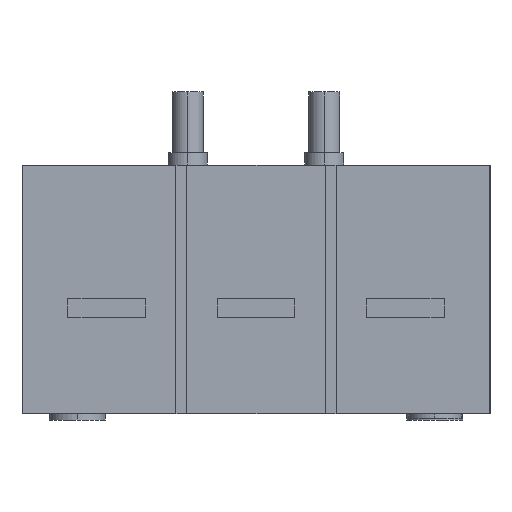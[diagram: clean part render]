
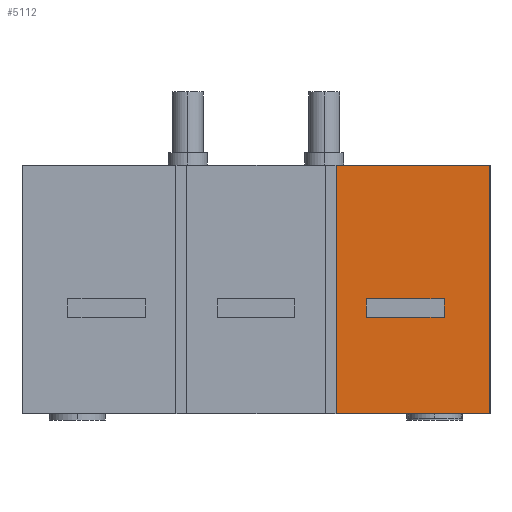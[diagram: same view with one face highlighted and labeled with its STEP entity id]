
A CAD part, front view. The second image highlights one B-rep face of the part: STEP entity #5112.
In plain terms, the highlighted planar face has unit normal (0, -1, 0) as drawn and (1, 0, 0) by its records, which use the part's own axes.
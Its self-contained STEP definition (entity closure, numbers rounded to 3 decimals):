
#110 = CARTESIAN_POINT ( 'NONE',  ( 138.5, 60.5, 31. ) ) ;
#306 = EDGE_CURVE ( 'NONE', #2381, #2173, #4398, .T. ) ;
#400 = FACE_BOUND ( 'NONE', #3932, .T. ) ;
#438 = VECTOR ( 'NONE', #6937, 1000. ) ;
#469 = FACE_OUTER_BOUND ( 'NONE', #7466, .T. ) ;
#671 = DIRECTION ( 'NONE',  ( 0., 0., -1. ) ) ;
#705 = ORIENTED_EDGE ( 'NONE', *, *, #3794, .T. ) ;
#717 = EDGE_CURVE ( 'NONE', #3148, #2173, #5506, .T. ) ;
#766 = DIRECTION ( 'NONE',  ( 0., 1., 0. ) ) ;
#840 = VECTOR ( 'NONE', #5392, 1000. ) ;
#921 = VECTOR ( 'NONE', #4125, 1000. ) ;
#1320 = DIRECTION ( 'NONE',  ( 0., -1., 0. ) ) ;
#1740 = CARTESIAN_POINT ( 'NONE',  ( 138.5, 95., 0. ) ) ;
#1849 = LINE ( 'NONE', #4802, #4335 ) ;
#2173 = VERTEX_POINT ( 'NONE', #110 ) ;
#2182 = DIRECTION ( 'NONE',  ( 0., 0., -1. ) ) ;
#2289 = CARTESIAN_POINT ( 'NONE',  ( 138.5, 35.5, 31. ) ) ;
#2303 = CARTESIAN_POINT ( 'NONE',  ( 138.5, 25.75, 80. ) ) ;
#2381 = VERTEX_POINT ( 'NONE', #2289 ) ;
#2491 = LINE ( 'NONE', #6598, #6014 ) ;
#2545 = VECTOR ( 'NONE', #7209, 1000. ) ;
#2643 = VECTOR ( 'NONE', #766, 1000. ) ;
#2704 = CARTESIAN_POINT ( 'NONE',  ( 138.5, 75.25, 0. ) ) ;
#2877 = ORIENTED_EDGE ( 'NONE', *, *, #3081, .T. ) ;
#3081 = EDGE_CURVE ( 'NONE', #6483, #3148, #3687, .T. ) ;
#3114 = CARTESIAN_POINT ( 'NONE',  ( 138.5, -23., 37. ) ) ;
#3148 = VERTEX_POINT ( 'NONE', #6199 ) ;
#3240 = DIRECTION ( 'NONE',  ( 0., -1., 0. ) ) ;
#3482 = ORIENTED_EDGE ( 'NONE', *, *, #3638, .F. ) ;
#3638 = EDGE_CURVE ( 'NONE', #4750, #5075, #6300, .T. ) ;
#3687 = LINE ( 'NONE', #3114, #2643 ) ;
#3785 = EDGE_CURVE ( 'NONE', #6483, #2381, #2491, .T. ) ;
#3794 = EDGE_CURVE ( 'NONE', #4750, #4869, #1849, .T. ) ;
#3824 = CARTESIAN_POINT ( 'NONE',  ( 138.5, -23., 31. ) ) ;
#3932 = EDGE_LOOP ( 'NONE', ( #2877, #6846, #5282, #5040 ) ) ;
#4125 = DIRECTION ( 'NONE',  ( 0., 0., -1. ) ) ;
#4231 = CARTESIAN_POINT ( 'NONE',  ( 138.5, 25.75, 0. ) ) ;
#4335 = VECTOR ( 'NONE', #1320, 1000. ) ;
#4398 = LINE ( 'NONE', #3824, #2545 ) ;
#4426 = CARTESIAN_POINT ( 'NONE',  ( 138.5, 75.25, 80. ) ) ;
#4750 = VERTEX_POINT ( 'NONE', #4426 ) ;
#4802 = CARTESIAN_POINT ( 'NONE',  ( 138.5, 95., 80. ) ) ;
#4836 = CARTESIAN_POINT ( 'NONE',  ( 138.5, 35.5, 37. ) ) ;
#4869 = VERTEX_POINT ( 'NONE', #2303 ) ;
#4871 = EDGE_CURVE ( 'NONE', #5075, #6525, #5701, .T. ) ;
#4918 = PLANE ( 'NONE',  #5520 ) ;
#5030 = ORIENTED_EDGE ( 'NONE', *, *, #4871, .F. ) ;
#5040 = ORIENTED_EDGE ( 'NONE', *, *, #3785, .F. ) ;
#5075 = VERTEX_POINT ( 'NONE', #2704 ) ;
#5112 = ADVANCED_FACE ( 'NONE', ( #469, #400 ), #4918, .T. ) ;
#5282 = ORIENTED_EDGE ( 'NONE', *, *, #306, .F. ) ;
#5331 = VECTOR ( 'NONE', #2182, 1000. ) ;
#5392 = DIRECTION ( 'NONE',  ( 0., 0., -1. ) ) ;
#5433 = LINE ( 'NONE', #6445, #840 ) ;
#5506 = LINE ( 'NONE', #7349, #5331 ) ;
#5520 = AXIS2_PLACEMENT_3D ( 'NONE', #7201, #6637, #3240 ) ;
#5701 = LINE ( 'NONE', #1740, #438 ) ;
#6014 = VECTOR ( 'NONE', #671, 1000. ) ;
#6199 = CARTESIAN_POINT ( 'NONE',  ( 138.5, 60.5, 37. ) ) ;
#6264 = CARTESIAN_POINT ( 'NONE',  ( 138.5, 75.25, 95. ) ) ;
#6300 = LINE ( 'NONE', #6264, #921 ) ;
#6445 = CARTESIAN_POINT ( 'NONE',  ( 138.5, 25.75, 80. ) ) ;
#6469 = EDGE_CURVE ( 'NONE', #4869, #6525, #5433, .T. ) ;
#6483 = VERTEX_POINT ( 'NONE', #4836 ) ;
#6525 = VERTEX_POINT ( 'NONE', #4231 ) ;
#6598 = CARTESIAN_POINT ( 'NONE',  ( 138.5, 35.5, 55. ) ) ;
#6637 = DIRECTION ( 'NONE',  ( 1., 0., 0. ) ) ;
#6846 = ORIENTED_EDGE ( 'NONE', *, *, #717, .T. ) ;
#6937 = DIRECTION ( 'NONE',  ( 0., -1., 0. ) ) ;
#6942 = ORIENTED_EDGE ( 'NONE', *, *, #6469, .T. ) ;
#7201 = CARTESIAN_POINT ( 'NONE',  ( 138.5, 75.25, 95. ) ) ;
#7209 = DIRECTION ( 'NONE',  ( 0., 1., 0. ) ) ;
#7349 = CARTESIAN_POINT ( 'NONE',  ( 138.5, 60.5, 55. ) ) ;
#7466 = EDGE_LOOP ( 'NONE', ( #705, #6942, #5030, #3482 ) ) ;
